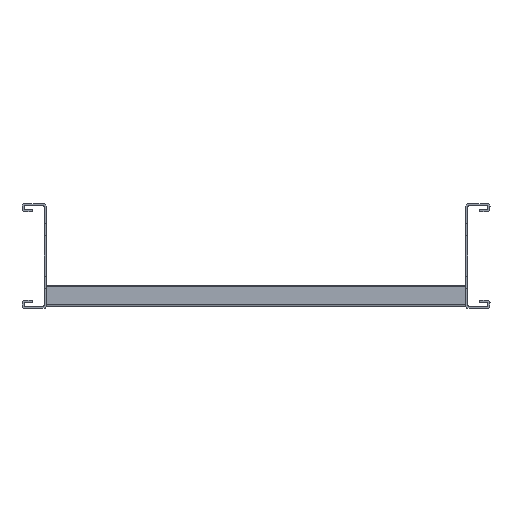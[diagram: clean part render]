
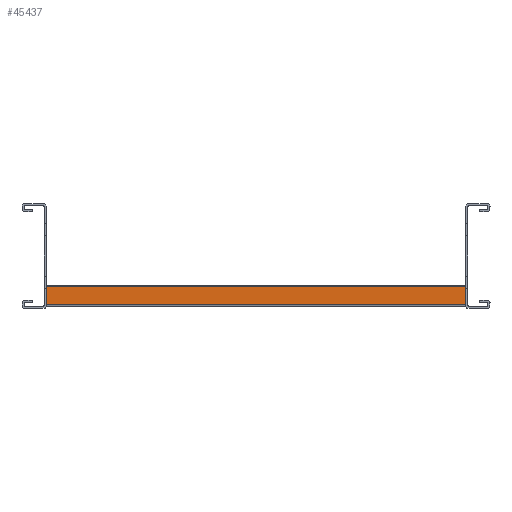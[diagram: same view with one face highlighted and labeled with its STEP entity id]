
A CAD part, left-side view. The second image highlights one B-rep face of the part: STEP entity #45437.
In plain terms, the highlighted planar face has unit normal (-1, 0, 0) as drawn and (0, 1, 0) by its records, which use the part's own axes.
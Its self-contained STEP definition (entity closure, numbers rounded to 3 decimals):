
#3183=FACE_OUTER_BOUND('',#6261,.T.);
#6261=EDGE_LOOP('',(#41094,#41095,#41096,#41097));
#12371=LINE('',#70096,#18451);
#12377=LINE('',#70113,#18457);
#12478=LINE('',#70478,#18558);
#12479=LINE('',#70480,#18559);
#18451=VECTOR('',#57686,304.8);
#18457=VECTOR('',#57698,304.8);
#18558=VECTOR('',#57987,304.8);
#18559=VECTOR('',#57990,304.8);
#22606=VERTEX_POINT('',#70093);
#22607=VERTEX_POINT('',#70095);
#22614=VERTEX_POINT('',#70110);
#22615=VERTEX_POINT('',#70112);
#28726=EDGE_CURVE('',#22606,#22607,#12371,.T.);
#28734=EDGE_CURVE('',#22614,#22615,#12377,.T.);
#28918=EDGE_CURVE('',#22615,#22606,#12478,.T.);
#28919=EDGE_CURVE('',#22614,#22607,#12479,.T.);
#41094=ORIENTED_EDGE('',*,*,#28726,.F.);
#41095=ORIENTED_EDGE('',*,*,#28918,.F.);
#41096=ORIENTED_EDGE('',*,*,#28734,.F.);
#41097=ORIENTED_EDGE('',*,*,#28919,.T.);
#43400=PLANE('',#47658);
#45437=ADVANCED_FACE('',(#3183),#43400,.T.);
#47658=AXIS2_PLACEMENT_3D('',#70479,#57988,#57989);
#57686=DIRECTION('',(0.,0.,-1.));
#57698=DIRECTION('',(0.,0.,1.));
#57987=DIRECTION('',(-1.,0.,0.));
#57988=DIRECTION('center_axis',(0.,1.,0.));
#57989=DIRECTION('ref_axis',(1.,0.,0.));
#57990=DIRECTION('',(-1.,0.,0.));
#70093=CARTESIAN_POINT('',(0.,20.,8.5));
#70095=CARTESIAN_POINT('',(0.,20.,-8.5));
#70096=CARTESIAN_POINT('',(0.,20.,8.5));
#70110=CARTESIAN_POINT('',(400.,20.,-8.5));
#70112=CARTESIAN_POINT('',(400.,20.,8.5));
#70113=CARTESIAN_POINT('',(400.,20.,-8.5));
#70478=CARTESIAN_POINT('',(0.,20.,8.5));
#70479=CARTESIAN_POINT('Origin',(0.,20.,8.5));
#70480=CARTESIAN_POINT('',(0.,20.,-8.5));
